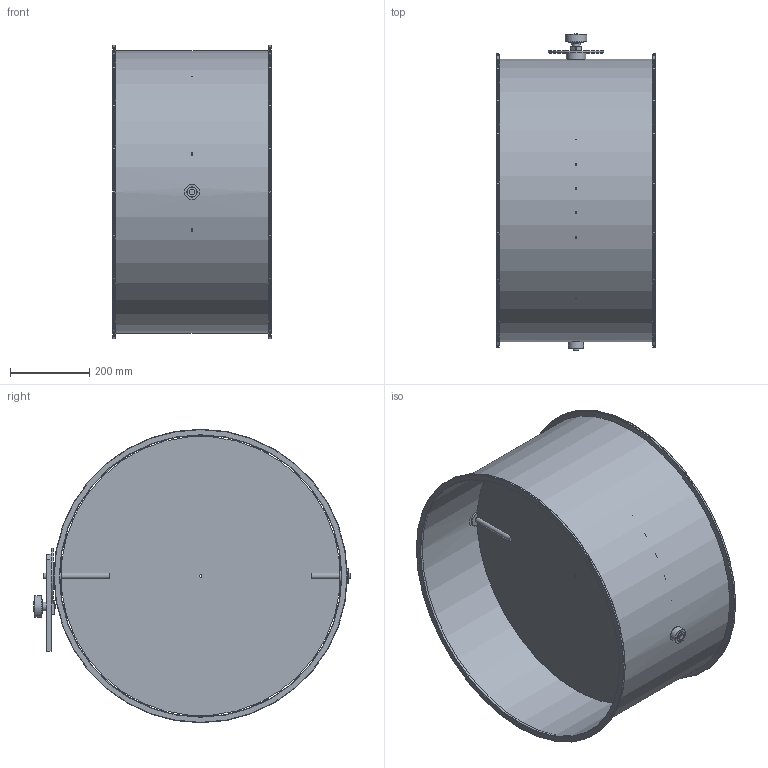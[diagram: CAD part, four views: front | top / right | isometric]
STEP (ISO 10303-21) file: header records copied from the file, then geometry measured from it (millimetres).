
FILE_DESCRIPTION(/* description */ (''),/* implementation_level */ '2;1');
FILE_NAME(/* name */ 'METU_Drosselklappe_Flansch_verzinkt_EA114-80B__710_L400_handbetaetigt.stp',/* time_stamp */ '2022-04-22T13:58:22+02:00',/* author */ (''),/* organization */ (''),/* preprocessor_version */ 'ST-DEVELOPER v11',/* originating_system */ 'SIEMENS UGS NX 6.0',/* authorisation */ '');
FILE_SCHEMA (('CONFIG_CONTROL_DESIGN'));
Length unit declared in the file: millimetre
Products named in the file (1): d.ga332Aq8to
Bounding box: 400 x 797.34 x 740 mm (x, y, z)
Volume: 2115675.9 mm3; surface area: 2785861.2 mm2
Topology: 12 solids, 12 shells, 88 faces, 180 edges, 122 vertices
Faces by surface type: plane 41, cylinder 37, torus 6, sphere 2, cone 2
Full cylindrical faces by diameter (mm): 6 x7, 8.5 x1, 10 x1, 11 x1, 15 x5, 22 x1, 25 x3, 25.85 x2, 26 x2, 38 x3, 48 x1, 49 x1, 55 x1, 140 x1, 710 x1, 712 x1, 740 x2
Entity records: 2200 total; most frequent: CARTESIAN_POINT 387, DIRECTION 374, ORIENTED_EDGE 246, EDGE_LOOP 172, AXIS2_PLACEMENT_3D 166, FACE_BOUND 150, EDGE_CURVE 123, VERTEX_POINT 107
